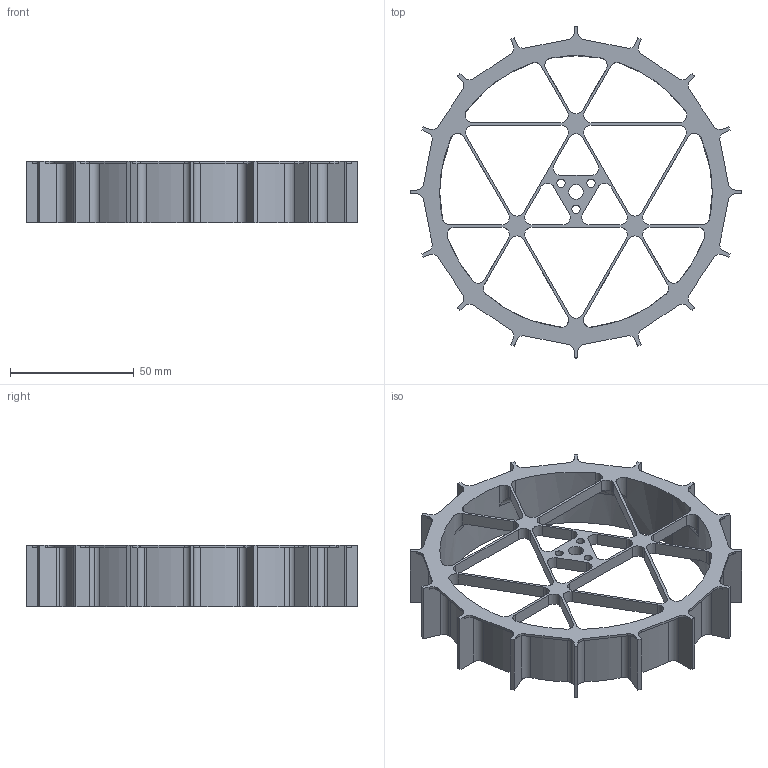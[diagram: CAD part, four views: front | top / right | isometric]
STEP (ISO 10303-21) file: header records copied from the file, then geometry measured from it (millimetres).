
FILE_DESCRIPTION (( 'STEP AP214' ), '1' );
FILE_NAME ('Uus_ratas_pikihammastega.STEP', '2025-05-19T11:56:29', ( '' ), ( '' ), 'SwSTEP 2.0', 'SolidWorks 2024', '' );
FILE_SCHEMA (( 'AUTOMOTIVE_DESIGN' ));
Length unit declared in the file: millimetre
Products named in the file (1): Uus_ratas_pikihammastega
Bounding box: 134 x 134 x 25 mm (x, y, z)
Volume: 27817.9 mm3; surface area: 37429.4 mm2
Topology: 1 solids, 1 shells, 296 faces, 909 edges, 604 vertices
Faces by surface type: cylinder 178, plane 103, torus 12, bspline 3
Entity records: 10919 total; most frequent: CARTESIAN_POINT 2427, DIRECTION 1831, ORIENTED_EDGE 1818, EDGE_CURVE 909, AXIS2_PLACEMENT_3D 672, VERTEX_POINT 604, VECTOR 487, LINE 487
